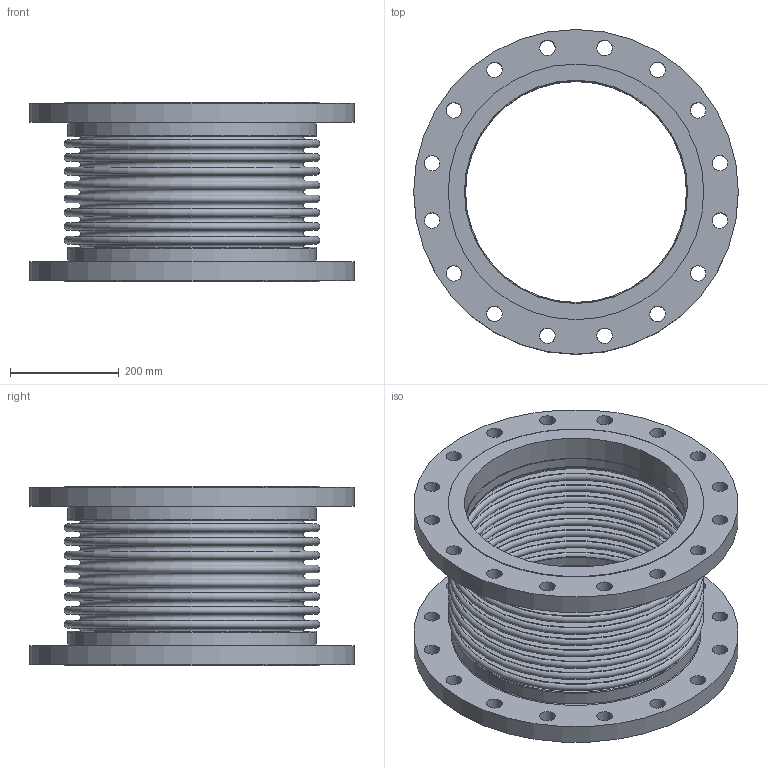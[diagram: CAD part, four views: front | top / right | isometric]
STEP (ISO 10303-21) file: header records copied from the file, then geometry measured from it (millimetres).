
FILE_DESCRIPTION(/* description */ ('EXPANSION JOINT,SINGLE, FLANGED ENDS,16 INCH','CAx-IF Rec.Pracs.---Representation and Presentation of Product Manufacturing Information (PMI)---4.0---2014-10-13'),/* implementation_level */ '2;1');
FILE_NAME(/* name */ 'US-16-8-150S-FLANGED ENDS.stp',/* time_stamp */ '2026-07-31T17:33:26-05:00',/* author */ ('Guadalupe'),/* organization */ (''),/* preprocessor_version */ 'ST-DEVELOPER v20.1',/* originating_system */ 'Autodesk Inventor 2026',/* authorisation */ '');
FILE_SCHEMA (('AP242_MANAGED_MODEL_BASED_3D_ENGINEERING_MIM_LF { 1 0 10303 442 2 1 4 }'));
Length unit declared in the file: inch
Products named in the file (3): 16-150S; 16-150S-02; 16-150S-01
Assembly tree (3 placements, depth 2):
  16-150S
    16-150S-02  x2
    16-150S-01
Bounding box: 596.9 x 596.9 x 330.2 mm (x, y, z)
Volume: 12793846.7 mm3; surface area: 2783043.5 mm2
Topology: 5 solids, 5 shells, 128 faces, 246 edges, 164 vertices
Faces by surface type: plane 46, cylinder 44, torus 38
Full cylindrical faces by diameter (mm): 28.575 x32, 406.4 x2, 409.448 x2, 410.464 x2, 457.2 x2, 469.9 x2, 596.9 x2
Entity records: 2870 total; most frequent: DIRECTION 578, CARTESIAN_POINT 425, ORIENTED_EDGE 360, AXIS2_PLACEMENT_3D 277, EDGE_CURVE 180, EDGE_LOOP 176, CIRCLE 156, VERTEX_POINT 120
